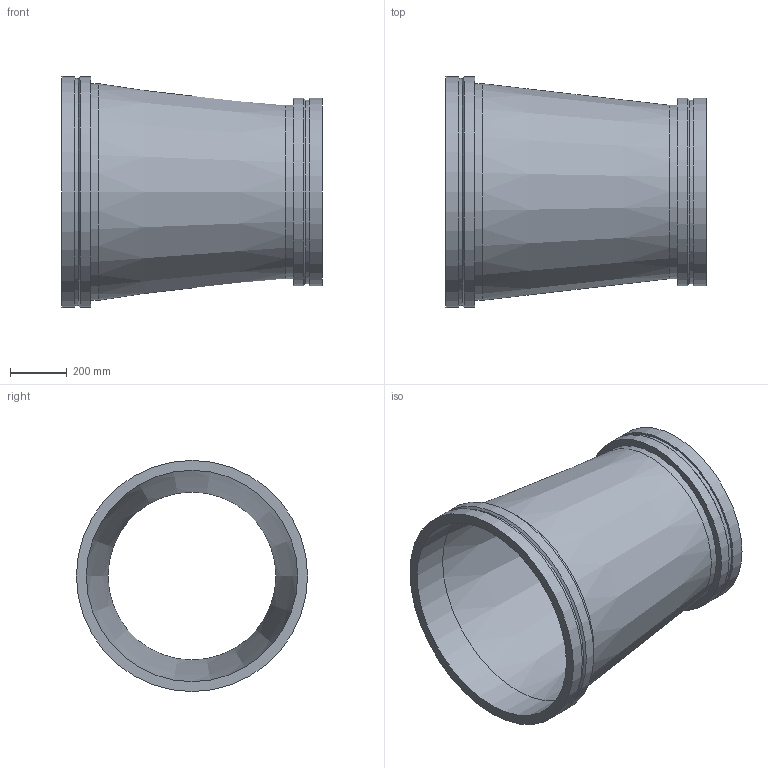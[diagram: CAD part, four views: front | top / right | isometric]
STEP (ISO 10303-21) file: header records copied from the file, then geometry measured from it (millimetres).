
FILE_DESCRIPTION(/* description */ ('VIC REDUCER CONCENTRIC No W50 VR','CAx-IF Rec.Pracs.---Representation and Presentation of Product Manufacturing Information (PMI)---4.0---2014-10-13'),/* implementation_level */ '2;1');
FILE_NAME(/* name */ 'C:\Users\kkamble\AppData\Roaming\Autodesk\ApplicationPlugins\Back Up\Victaulic_Vic-Ring_Reducer Concentric_No W50 VR (AGR)\Victaulic_Vic-Ring_Reducer Concentric_No W50 VR (AGR)_30.0x24.0 (750x600).stp',/* time_stamp */ '2020-09-10T11:46:28+05:00',/* author */ ('cps_temp'),/* organization */ ('Victaulic'),/* preprocessor_version */ 'ST-DEVELOPER v17.2',/* originating_system */ 'Autodesk Inventor 2019',/* authorisation */ '');
FILE_SCHEMA (('AP242_MANAGED_MODEL_BASED_3D_ENGINEERING_MIM_LF { 1 0 10303 442 1 1 4 }'));
Length unit declared in the file: inch
Products named in the file (1): W50 VR-30.0x24.0
Bounding box: 914.4 x 812.8 x 812.8 mm (x, y, z)
Volume: 29484333.7 mm3; surface area: 4251089.8 mm2
Topology: 1 solids, 1 shells, 20 faces, 54 edges, 40 vertices
Faces by surface type: cylinder 10, plane 6, cone 4
Full cylindrical faces by diameter (mm): 590.55 x1, 609.6 x1, 645.922 x1, 660.4 x2, 742.95 x1, 762 x1, 798.322 x1, 812.8 x2
Entity records: 830 total; most frequent: DIRECTION 162, CARTESIAN_POINT 132, ORIENTED_EDGE 108, AXIS2_PLACEMENT_3D 74, EDGE_CURVE 54, CIRCLE 40, VERTEX_POINT 40, EDGE_LOOP 26
